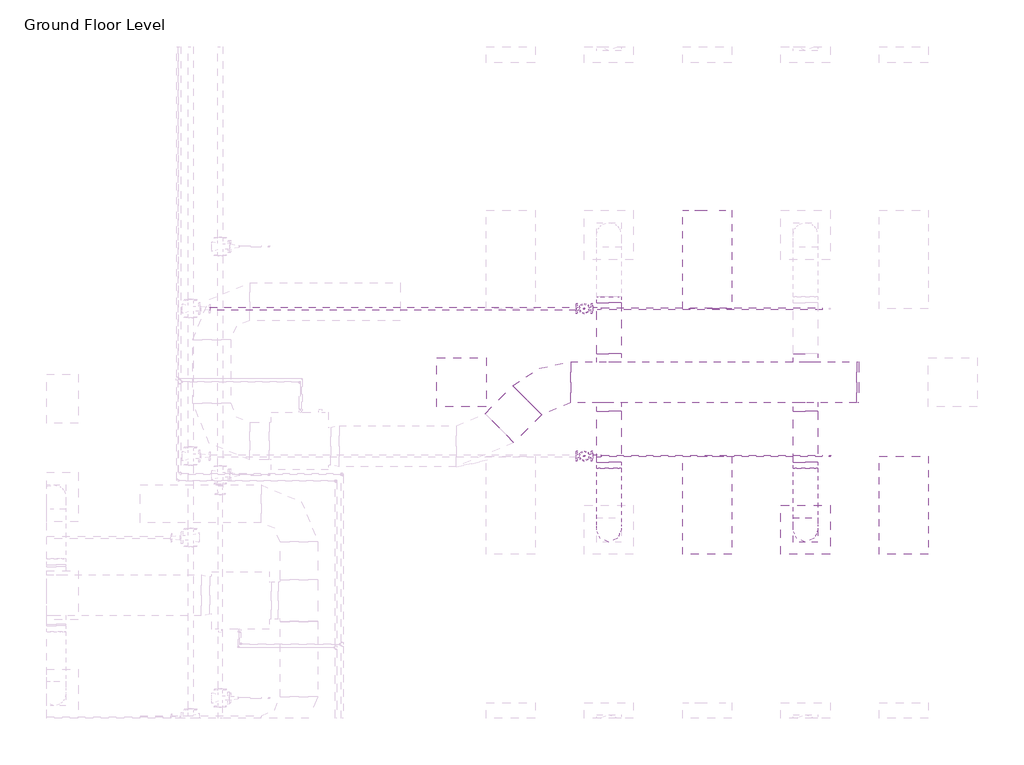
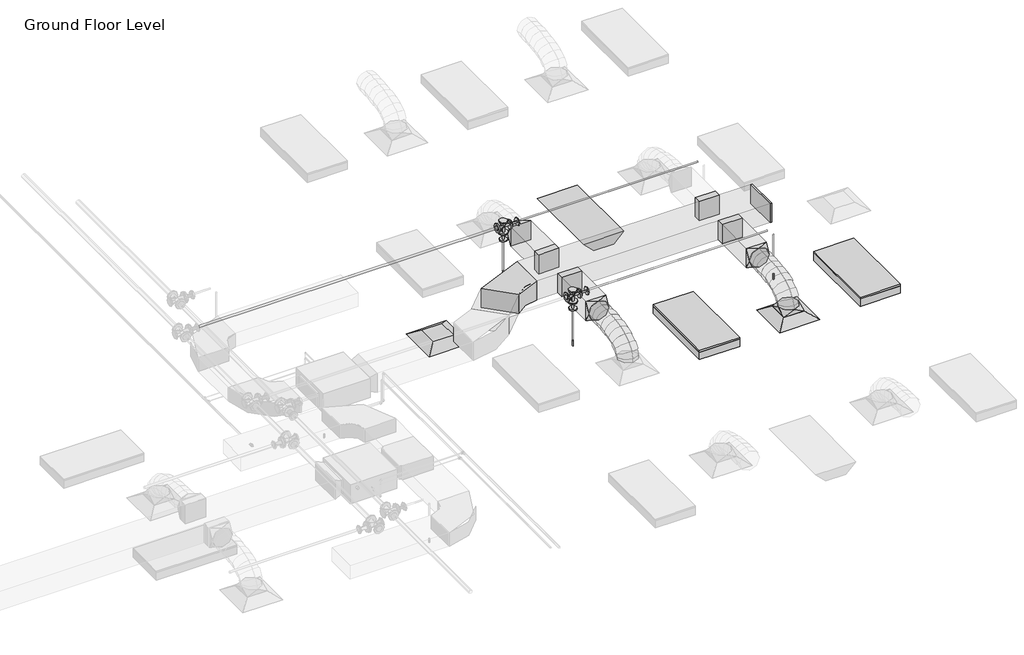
# One storey, part 64 of 73: 10 duct fittings, 7 duct segments, 6 pipe fittings, 6 pipe segments, 3 fire suppression terminals, 3 light fixtures, 2 air terminals.
"""IFC4 building model written with IfcOpenShell, lengths in millimetres."""

from ifc_helpers import new_model, si_unit, point, frame, frame_2d, origin, place, context, project, spatial, polyline, circle_curve, ellipse_curve, trimmed, segment, composite_curve, outline, extrude, transform, mapped, element, save
from ifc_brep_helpers import plane_surface, cylinder_surface, advanced_brep
from components import m_return_diffuser_600_x_600_face_300_x_300_connection_ff221211, m_rectangular_elbow_radius_1_5_w_acc56c25, m_rectangular_endcap_standard_72d4d00d, m_rectangular_takeoff_standard_cb0ccb98, m_rectangular_takeoff_standard_2be5eba1, m_rectangular_to_round_transition_angle_45_degree_641efff0, m_sprinkler_dry_pendent_hosted_15_mm_dry_pendent_9bda8e11, m_emergency_recessed_lighting_fixture_600x1200_277_5b10b25d, m_troffer_light_parabolic_rectangular1_0600x1200mm_4_lamp_86473d4a, m_reducer_flanged_cs_class_150_standard_ccf252ad, m_tee_round_base_flanged_cs_class_150_standard_7e5987a1

model = new_model("IFC4")

# Units and contexts
model_context = context("Model", 3, world=origin())
ifc_project = project(units=[si_unit("LENGTHUNIT", "METRE", prefix="MILLI")], contexts=[model_context])

# Site, building, storey
site = spatial("IfcSite", under=ifc_project)
building = spatial("IfcBuilding", under=site)
storey = spatial("IfcBuildingStorey", under=building, Name="Ground Floor Level", Elevation=900.0)

# Air terminals
placement = place(None, origin())
m_return_diffuser_600_x_600_face_300_x_300_connection_shape = m_return_diffuser_600_x_600_face_300_x_300_connection_ff221211(model_context)
element("IfcAirTerminal", 1, ObjectType="M_Return Diffuser : 600 x 600 Face 300 x 300 Connection", at=placement, inside=storey, context=model_context, shape_type="MappedRepresentation", body=[
    mapped(m_return_diffuser_600_x_600_face_300_x_300_connection_shape, transform((8942.7672395, 6735.2153534, 3650.0), x_axis=(1.0, 0.0, 0.0), y_axis=(0.0, 1.0, 0.0), z_axis=(0.0, 0.0, 1.0))),
])
element("IfcAirTerminal", 2, ObjectType="M_Supply Diffuser : 600 x 600 Face 300 x 300 Connection", at=placement, inside=storey, context=model_context, shape_type="MappedRepresentation", body=[
    mapped(m_return_diffuser_600_x_600_face_300_x_300_connection_shape, transform((13142.7672395, 4935.2153534, 3650.0), x_axis=(1.0, 0.0, 0.0), y_axis=(0.0, 1.0, 0.0), z_axis=(0.0, 0.0, 1.0))),
])

# Duct fittings
m_rectangular_elbow_radius_1_5_w_shape = m_rectangular_elbow_radius_1_5_w_acc56c25(model_context)
element("IfcDuctFitting", 3, ObjectType="M_Rectangular Elbow - Radius : 1.5 W", at=placement, inside=storey, context=model_context, shape_type="MappedRepresentation", body=[
    mapped(m_rectangular_elbow_radius_1_5_w_shape, transform((9966.7301365, 6735.2153534, 4100.0), x_axis=(-1.0, 0.0, 0.0), y_axis=(0.0, -0.9999999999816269, 6.061864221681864e-06), z_axis=(0.0, 6.061864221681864e-06, 0.9999999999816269))),
])
m_rectangular_endcap_standard_shape = m_rectangular_endcap_standard_72d4d00d(model_context)
element("IfcDuctFitting", 4, ObjectType="M_Rectangular Endcap : Standard", at=placement, inside=storey, context=model_context, shape_type="MappedRepresentation", body=[
    mapped(m_rectangular_endcap_standard_shape, transform((13766.7301365, 6735.2153534, 4100.0), x_axis=(1.0, 0.0, 0.0), y_axis=(0.0, 1.0, 0.0), z_axis=(0.0, 0.0, 1.0))),
])
m_rectangular_takeoff_standard_shape = m_rectangular_takeoff_standard_cb0ccb98(model_context)
element("IfcDuctFitting", 5, ObjectType="M_Rectangular Takeoff : Standard", at=placement, inside=storey, context=model_context, shape_type="MappedRepresentation", body=[
    mapped(m_rectangular_takeoff_standard_shape, transform((10742.7672395, 6985.2153534, 4100.0), x_axis=(0.0, 1.0, 0.0), y_axis=(1.0, 0.0, 0.0), z_axis=(0.0, 0.0, -1.0))),
])
element("IfcDuctFitting", 6, ObjectType="M_Rectangular Takeoff : Standard", at=placement, inside=storey, context=model_context, shape_type="MappedRepresentation", body=[
    mapped(m_rectangular_takeoff_standard_shape, transform((13142.7672395, 6985.2153534, 4100.0), x_axis=(0.0, 1.0, 0.0), y_axis=(1.0, 0.0, 0.0), z_axis=(0.0, 0.0, -1.0))),
])
m_rectangular_takeoff_standard_2_shape = m_rectangular_takeoff_standard_2be5eba1(model_context)
element("IfcDuctFitting", 7, ObjectType="M_Rectangular Takeoff : Standard", at=placement, inside=storey, context=model_context, shape_type="MappedRepresentation", body=[
    mapped(m_rectangular_takeoff_standard_2_shape, transform((10742.7672395, 6485.2153534, 4100.0), x_axis=(0.0, -1.0, 0.0), y_axis=(-1.0, 0.0, 0.0), z_axis=(0.0, 0.0, -1.0))),
])
element("IfcDuctFitting", 8, ObjectType="M_Rectangular Takeoff : Standard", at=placement, inside=storey, context=model_context, shape_type="MappedRepresentation", body=[
    mapped(m_rectangular_takeoff_standard_2_shape, transform((13142.7672395, 6485.2153534, 4100.0), x_axis=(0.0, -1.0, 0.0), y_axis=(-1.0, 0.0, 0.0), z_axis=(0.0, 0.0, -1.0))),
])
m_rectangular_to_round_transition_angle_45_degree_shape = m_rectangular_to_round_transition_angle_45_degree_641efff0(model_context)
element("IfcDuctFitting", 9, ObjectType="M_Rectangular to Round Transition - Angle : 45 Degree", at=placement, inside=storey, context=model_context, shape_type="MappedRepresentation", body=[
    mapped(m_rectangular_to_round_transition_angle_45_degree_shape, transform((10742.7672395, 5762.5512847, 4100.0), x_axis=(0.0, -1.0, 0.0), y_axis=(1.0, 0.0, 0.0), z_axis=(0.0, 0.0, 1.0))),
])
element("IfcDuctFitting", 10, ObjectType="M_Rectangular to Round Transition - Angle : 45 Degree", at=placement, inside=storey, context=model_context, shape_type="MappedRepresentation", body=[
    mapped(m_rectangular_to_round_transition_angle_45_degree_shape, transform((13142.7672395, 4935.2153534, 3751.6), x_axis=(0.0, 0.0, 1.0), y_axis=(-1.0, 0.0, 0.0), z_axis=(0.0, -1.0, 0.0))),
])
element("IfcDuctFitting", 11, ObjectType="M_Rectangular to Round Transition - Angle : 45 Degree", at=placement, inside=storey, context=model_context, shape_type="MappedRepresentation", body=[
    mapped(m_rectangular_to_round_transition_angle_45_degree_shape, transform((13142.7672395, 5762.5512847, 4100.0), x_axis=(0.0, -1.0, 0.0), y_axis=(1.0, 0.0, 0.0), z_axis=(0.0, 0.0, 1.0))),
])
element("IfcDuctFitting", 12, ObjectType="M_Rectangular to Round Transition - Angle : 45 Degree", at=placement, inside=storey, context=model_context, shape_type="MappedRepresentation", body=[
    mapped(m_rectangular_to_round_transition_angle_45_degree_shape, transform((10742.7672395, 7707.8794221, 4100.0), x_axis=(0.0, 1.0, 0.0), y_axis=(-1.0, 0.0, 0.0), z_axis=(0.0, 0.0, 1.0))),
])

# Duct segments
element("IfcDuctSegment", 13, ObjectType="Flex - Round", at=placement, inside=storey, context=model_context, shape_type="AdvancedBrep", body=[
    advanced_brep(
    [(10892.7672395, 4935.2153534, 3826.6), (10742.7672395, 4785.2153534, 3826.6), (10592.7672395, 4935.2153534, 3826.6), (10742.7672395, 5085.2153534, 3826.6), (10892.7672395, 4935.2153534, 3857.9377114), (10742.7672395, 4785.2153534, 3883.5809337), (10592.7672395, 4935.2153534, 3857.9377114), (10742.7672395, 5085.2153534, 3832.2944892), (10892.7672395, 4952.2312859, 3906.2505728), (10742.7672395, 4818.493307, 3978.0660967), (10592.7672395, 4952.2312859, 3906.2505728), (10742.7672395, 5085.9692649, 3834.435049), (10892.7672395, 4999.4151663, 3968.7113131), (10742.7672395, 4895.209267, 4079.6206026), (10592.7672395, 4999.4151663, 3968.7113131), (10742.7672395, 5103.6210655, 3857.8020236), (10892.7672395, 5070.9711184, 4016.0700639), (10742.7672395, 5002.0370628, 4150.3237489), (10592.7672395, 5070.9711184, 4016.0700639), (10742.7672395, 5139.9051741, 3881.8163788), (10892.7672395, 5161.1032664, 4050.4146682), (10742.7672395, 5117.5425033, 4194.3367758), (10592.7672395, 5161.1032664, 4050.4146682), (10742.7672395, 5204.6640296, 3906.4925606), (10892.7672395, 5264.0157343, 4073.8329691), (10742.7672395, 5237.4548103, 4221.6234841), (10592.7672395, 5264.0157343, 4073.8329691), (10742.7672395, 5290.5766583, 3926.0424542), (10892.7672395, 5373.912646, 4088.4128097), (10742.7672395, 5358.7617437, 4237.7170733), (10592.7672395, 5373.912646, 4088.4128097), (10742.7672395, 5389.0635483, 3939.1085462), (10892.7672395, 5484.9981256, 4096.242033), (10742.7672395, 5477.4927974, 4246.085151), (10592.7672395, 5484.9981256, 4096.242033), (10742.7672395, 5492.5034538, 3946.398915), (10892.7672395, 5591.4762972, 4099.4084821), (10742.7672395, 5588.7848041, 4249.394754), (10592.7672395, 5591.4762972, 4099.4084821), (10742.7672395, 5594.1677903, 3949.4222102), (10892.7672395, 5687.5512847, 4100.0), (10742.7672395, 5688.4747925, 3950.0028429), (10592.7672395, 5687.5512847, 4100.0), (10742.7672395, 5686.6277768, 4249.9971571)],
    [
        (0, 1, circle_curve(frame((10742.7672395, 4935.2153534, 3826.6), z_axis=(0.0, 0.0, -1.0), x_axis=(1.0, 0.0, 0.0)), 150.0)),
        (1, 2, circle_curve(frame((10742.7672395, 4935.2153534, 3826.6), z_axis=(0.0, 0.0, -1.0), x_axis=(1.0, 0.0, 0.0)), 150.0)),
        (2, 3, circle_curve(frame((10742.7672395, 4935.2153534, 3826.6), z_axis=(0.0, 0.0, -1.0), x_axis=(1.0, 0.0, 0.0)), 150.0)),
        (3, 0, circle_curve(frame((10742.7672395, 4935.2153534, 3826.6), z_axis=(0.0, 0.0, -1.0), x_axis=(1.0, 0.0, 0.0)), 150.0)),
        (0, 4),
        (4, 5, ellipse_curve(frame((10742.7672395, 4935.2153534, 3857.9377114), z_axis=(0.0, -0.16851014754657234, -0.9856999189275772), x_axis=(0.0, 0.9856999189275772, -0.1685101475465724)), 152.176131, 150.0)),
        (5, 1),
        (5, 6, ellipse_curve(frame((10742.7672395, 4935.2153534, 3857.9377114), z_axis=(0.0, -0.16851014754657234, -0.9856999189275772), x_axis=(0.0, 0.9856999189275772, -0.1685101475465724)), 152.176131, 150.0)),
        (6, 2),
        (6, 7, ellipse_curve(frame((10742.7672395, 4935.2153534, 3857.9377114), z_axis=(0.0, -0.16851014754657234, -0.9856999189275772), x_axis=(0.0, 0.9856999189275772, -0.1685101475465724)), 152.176131, 150.0)),
        (7, 3),
        (7, 4, ellipse_curve(frame((10742.7672395, 4935.2153534, 3857.9377114), z_axis=(0.0, -0.16851014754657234, -0.9856999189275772), x_axis=(0.0, 0.9856999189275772, -0.1685101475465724)), 152.176131, 150.0)),
        (4, 8),
        (8, 9, ellipse_curve(frame((10742.7672395, 4952.2312859, 3906.2505728), z_axis=(0.0, -0.4730922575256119, -0.8810128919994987), x_axis=(0.0, 0.8810128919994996, -0.47309225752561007)), 151.8002519, 150.0)),
        (9, 5),
        (9, 10, ellipse_curve(frame((10742.7672395, 4952.2312859, 3906.2505728), z_axis=(0.0, -0.4730922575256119, -0.8810128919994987), x_axis=(0.0, 0.8810128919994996, -0.47309225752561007)), 151.8002519, 150.0)),
        (10, 6),
        (10, 11, ellipse_curve(frame((10742.7672395, 4952.2312859, 3906.2505728), z_axis=(0.0, -0.4730922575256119, -0.8810128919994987), x_axis=(0.0, 0.8810128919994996, -0.47309225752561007)), 151.8002519, 150.0)),
        (11, 7),
        (11, 8, ellipse_curve(frame((10742.7672395, 4952.2312859, 3906.2505728), z_axis=(0.0, -0.4730922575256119, -0.8810128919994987), x_axis=(0.0, 0.8810128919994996, -0.47309225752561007)), 151.8002519, 150.0)),
        (8, 12),
        (12, 13, ellipse_curve(frame((10742.7672395, 4999.4151663, 3968.7113131), z_axis=(0.0, -0.7287877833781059, -0.6847396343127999), x_axis=(0.0, 0.6847396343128, -0.7287877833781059)), 152.1832446, 150.0)),
        (13, 9),
        (13, 14, ellipse_curve(frame((10742.7672395, 4999.4151663, 3968.7113131), z_axis=(0.0, -0.7287877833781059, -0.6847396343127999), x_axis=(0.0, 0.6847396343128, -0.7287877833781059)), 152.1832446, 150.0)),
        (14, 10),
        (14, 15, ellipse_curve(frame((10742.7672395, 4999.4151663, 3968.7113131), z_axis=(0.0, -0.7287877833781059, -0.6847396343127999), x_axis=(0.0, 0.6847396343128, -0.7287877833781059)), 152.1832446, 150.0)),
        (15, 11),
        (15, 12, ellipse_curve(frame((10742.7672395, 4999.4151663, 3968.7113131), z_axis=(0.0, -0.7287877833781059, -0.6847396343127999), x_axis=(0.0, 0.6847396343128, -0.7287877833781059)), 152.1832446, 150.0)),
        (12, 16),
        (16, 17, ellipse_curve(frame((10742.7672395, 5070.9711184, 4016.0700639), z_axis=(0.0, -0.8895859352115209, -0.4567678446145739), x_axis=(0.0, 0.4567678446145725, -0.8895859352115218)), 150.91705, 150.0)),
        (17, 13),
        (17, 18, ellipse_curve(frame((10742.7672395, 5070.9711184, 4016.0700639), z_axis=(0.0, -0.8895859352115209, -0.4567678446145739), x_axis=(0.0, 0.4567678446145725, -0.8895859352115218)), 150.91705, 150.0)),
        (18, 14),
        (18, 19, ellipse_curve(frame((10742.7672395, 5070.9711184, 4016.0700639), z_axis=(0.0, -0.8895859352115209, -0.4567678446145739), x_axis=(0.0, 0.4567678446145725, -0.8895859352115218)), 150.91705, 150.0)),
        (19, 15),
        (19, 16, ellipse_curve(frame((10742.7672395, 5070.9711184, 4016.0700639), z_axis=(0.0, -0.8895859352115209, -0.4567678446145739), x_axis=(0.0, 0.4567678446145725, -0.8895859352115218)), 150.91705, 150.0)),
        (16, 20),
        (20, 21, ellipse_curve(frame((10742.7672395, 5161.1032664, 4050.4146682), z_axis=(0.0, -0.9571203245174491, -0.28969067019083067), x_axis=(0.0, 0.28969067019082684, -0.9571203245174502)), 150.369921, 150.0)),
        (21, 17),
        (21, 22, ellipse_curve(frame((10742.7672395, 5161.1032664, 4050.4146682), z_axis=(0.0, -0.9571203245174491, -0.28969067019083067), x_axis=(0.0, 0.28969067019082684, -0.9571203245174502)), 150.369921, 150.0)),
        (22, 18),
        (22, 23, ellipse_curve(frame((10742.7672395, 5161.1032664, 4050.4146682), z_axis=(0.0, -0.9571203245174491, -0.28969067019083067), x_axis=(0.0, 0.28969067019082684, -0.9571203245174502)), 150.369921, 150.0)),
        (23, 19),
        (23, 20, ellipse_curve(frame((10742.7672395, 5161.1032664, 4050.4146682), z_axis=(0.0, -0.9571203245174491, -0.28969067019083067), x_axis=(0.0, 0.28969067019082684, -0.9571203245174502)), 150.369921, 150.0)),
        (20, 24),
        (24, 25, ellipse_curve(frame((10742.7672395, 5264.0157343, 4073.8329691), z_axis=(0.0, -0.9842313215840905, -0.17688613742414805), x_axis=(0.0, 0.17688613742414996, -0.9842313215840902)), 150.1583131, 150.0)),
        (25, 21),
        (25, 26, ellipse_curve(frame((10742.7672395, 5264.0157343, 4073.8329691), z_axis=(0.0, -0.9842313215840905, -0.17688613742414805), x_axis=(0.0, 0.17688613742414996, -0.9842313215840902)), 150.1583131, 150.0)),
        (26, 22),
        (26, 27, ellipse_curve(frame((10742.7672395, 5264.0157343, 4073.8329691), z_axis=(0.0, -0.9842313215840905, -0.17688613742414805), x_axis=(0.0, 0.17688613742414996, -0.9842313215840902)), 150.1583131, 150.0)),
        (27, 23),
        (27, 24, ellipse_curve(frame((10742.7672395, 5264.0157343, 4073.8329691), z_axis=(0.0, -0.9842313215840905, -0.17688613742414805), x_axis=(0.0, 0.17688613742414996, -0.9842313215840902)), 150.1583131, 150.0)),
        (24, 28),
        (28, 29, ellipse_curve(frame((10742.7672395, 5373.912646, 4088.4128097), z_axis=(0.0, -0.9948906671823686, -0.10095821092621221), x_axis=(0.0, 0.10095821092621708, -0.9948906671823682)), 150.0710264, 150.0)),
        (29, 25),
        (29, 30, ellipse_curve(frame((10742.7672395, 5373.912646, 4088.4128097), z_axis=(0.0, -0.9948906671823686, -0.10095821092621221), x_axis=(0.0, 0.10095821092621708, -0.9948906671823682)), 150.0710264, 150.0)),
        (30, 26),
        (30, 31, ellipse_curve(frame((10742.7672395, 5373.912646, 4088.4128097), z_axis=(0.0, -0.9948906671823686, -0.10095821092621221), x_axis=(0.0, 0.10095821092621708, -0.9948906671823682)), 150.0710264, 150.0)),
        (31, 27),
        (31, 28, ellipse_curve(frame((10742.7672395, 5373.912646, 4088.4128097), z_axis=(0.0, -0.9948906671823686, -0.10095821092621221), x_axis=(0.0, 0.10095821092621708, -0.9948906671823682)), 150.0710264, 150.0)),
        (28, 32),
        (32, 33, ellipse_curve(frame((10742.7672395, 5484.9981256, 4096.242033), z_axis=(0.0, -0.9987479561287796, -0.05002519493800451), x_axis=(0.0, 0.050025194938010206, -0.9987479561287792)), 150.0309634, 150.0)),
        (33, 29),
        (33, 34, ellipse_curve(frame((10742.7672395, 5484.9981256, 4096.242033), z_axis=(0.0, -0.9987479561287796, -0.05002519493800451), x_axis=(0.0, 0.050025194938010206, -0.9987479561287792)), 150.0309634, 150.0)),
        (34, 30),
        (34, 35, ellipse_curve(frame((10742.7672395, 5484.9981256, 4096.242033), z_axis=(0.0, -0.9987479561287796, -0.05002519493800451), x_axis=(0.0, 0.050025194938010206, -0.9987479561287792)), 150.0309634, 150.0)),
        (35, 31),
        (35, 32, ellipse_curve(frame((10742.7672395, 5484.9981256, 4096.242033), z_axis=(0.0, -0.9987479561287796, -0.05002519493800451), x_axis=(0.0, 0.050025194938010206, -0.9987479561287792)), 150.0309634, 150.0)),
        (32, 36),
        (36, 37, ellipse_curve(frame((10742.7672395, 5591.4762972, 4099.4084821), z_axis=(0.0, -0.9998390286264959, -0.017942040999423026), x_axis=(0.0, 0.01794204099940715, -0.9998390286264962)), 150.0104193, 150.0)),
        (37, 33),
        (37, 38, ellipse_curve(frame((10742.7672395, 5591.4762972, 4099.4084821), z_axis=(0.0, -0.9998390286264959, -0.017942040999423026), x_axis=(0.0, 0.01794204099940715, -0.9998390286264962)), 150.0104193, 150.0)),
        (38, 34),
        (38, 39, ellipse_curve(frame((10742.7672395, 5591.4762972, 4099.4084821), z_axis=(0.0, -0.9998390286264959, -0.017942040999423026), x_axis=(0.0, 0.01794204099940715, -0.9998390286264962)), 150.0104193, 150.0)),
        (39, 35),
        (39, 36, ellipse_curve(frame((10742.7672395, 5591.4762972, 4099.4084821), z_axis=(0.0, -0.9998390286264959, -0.017942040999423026), x_axis=(0.0, 0.01794204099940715, -0.9998390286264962)), 150.0104193, 150.0)),
        (40, 41, circle_curve(frame((10742.7672395, 5687.5512847, 4100.0), z_axis=(0.0, 0.9999810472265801, 0.006156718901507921), x_axis=(1.0, 0.0, 0.0)), 150.0)),
        (41, 42, circle_curve(frame((10742.7672395, 5687.5512847, 4100.0), z_axis=(0.0, 0.9999810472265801, 0.006156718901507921), x_axis=(1.0, 0.0, 0.0)), 150.0)),
        (42, 43, circle_curve(frame((10742.7672395, 5687.5512847, 4100.0), z_axis=(0.0, 0.9999810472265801, 0.006156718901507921), x_axis=(1.0, 0.0, 0.0)), 150.0)),
        (43, 40, circle_curve(frame((10742.7672395, 5687.5512847, 4100.0), z_axis=(0.0, 0.9999810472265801, 0.006156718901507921), x_axis=(1.0, 0.0, 0.0)), 150.0)),
        (36, 40),
        (43, 37),
        (42, 38),
        (41, 39),
    ],
    [
        plane_surface(frame((10742.7672395, 4785.2153534, 3826.6), z_axis=(0.0, 0.0, -1.0), x_axis=(1.0, 0.0, 0.0))),
        cylinder_surface(frame((10742.7672395, 4935.2153534, 3826.6), z_axis=(0.0, 0.0, -1.0), x_axis=(1.0, 0.0, 0.0)), 150.0),
        cylinder_surface(frame((10742.7672395, 4935.2153534, 3857.9377114), z_axis=(0.0, -0.3322008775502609, -0.9432086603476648), x_axis=(1.0, 0.0, 0.0)), 150.0),
        cylinder_surface(frame((10742.7672395, 4952.2312859, 3906.2505728), z_axis=(0.0, -0.6027625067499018, -0.7979206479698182), x_axis=(1.0, 0.0, 0.0)), 150.0),
        cylinder_surface(frame((10742.7672395, 4999.4151663, 3968.7113131), z_axis=(0.0, -0.8339024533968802, -0.5519118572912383), x_axis=(1.0, 0.0, 0.0)), 150.0),
        cylinder_surface(frame((10742.7672395, 5070.9711184, 4016.0700639), z_axis=(0.0, -0.934458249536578, -0.35607271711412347), x_axis=(1.0, 0.0, 0.0)), 150.0),
        cylinder_surface(frame((10742.7672395, 5161.1032664, 4050.4146682), z_axis=(0.0, -0.9750732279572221, -0.22188330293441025), x_axis=(1.0, 0.0, 0.0)), 150.0),
        cylinder_surface(frame((10742.7672395, 5264.0157343, 4073.8329691), z_axis=(0.0, -0.9913140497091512, -0.1315159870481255), x_axis=(1.0, 0.0, 0.0)), 150.0),
        cylinder_surface(frame((10742.7672395, 5373.912646, 4088.4128097), z_axis=(0.0, -0.9975255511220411, -0.07030487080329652), x_axis=(1.0, 0.0, 0.0)), 150.0),
        cylinder_surface(frame((10742.7672395, 5484.9981256, 4096.242033), z_axis=(0.0, -0.9995581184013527, -0.02972487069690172), x_axis=(1.0, 0.0, 0.0)), 150.0),
        plane_surface(frame((10742.7672395, 5686.6277768, 4249.9971571), z_axis=(0.0, 0.9999810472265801, 0.0061567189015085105), x_axis=(1.0, 0.0, 0.0))),
        cylinder_surface(frame((10742.7672395, 5591.4762972, 4099.4084821), z_axis=(0.0, -0.9999810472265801, -0.006156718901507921), x_axis=(1.0, 0.0, 0.0)), 150.0),
    ],
    [
        (0, [[1, 2, 3, 4]]),
        (1, [[-1, 5, 6, 7]]),
        (1, [[-2, -7, 8, 9]]),
        (1, [[-3, -9, 10, 11]]),
        (1, [[-4, -11, 12, -5]]),
        (2, [[-6, 13, 14, 15]]),
        (2, [[-8, -15, 16, 17]]),
        (2, [[-10, -17, 18, 19]]),
        (2, [[-12, -19, 20, -13]]),
        (3, [[-14, 21, 22, 23]]),
        (3, [[-16, -23, 24, 25]]),
        (3, [[-18, -25, 26, 27]]),
        (3, [[-20, -27, 28, -21]]),
        (4, [[-22, 29, 30, 31]]),
        (4, [[-24, -31, 32, 33]]),
        (4, [[-26, -33, 34, 35]]),
        (4, [[-28, -35, 36, -29]]),
        (5, [[-30, 37, 38, 39]]),
        (5, [[-32, -39, 40, 41]]),
        (5, [[-34, -41, 42, 43]]),
        (5, [[-36, -43, 44, -37]]),
        (6, [[-38, 45, 46, 47]]),
        (6, [[-40, -47, 48, 49]]),
        (6, [[-42, -49, 50, 51]]),
        (6, [[-44, -51, 52, -45]]),
        (7, [[-46, 53, 54, 55]]),
        (7, [[-48, -55, 56, 57]]),
        (7, [[-50, -57, 58, 59]]),
        (7, [[-52, -59, 60, -53]]),
        (8, [[-54, 61, 62, 63]]),
        (8, [[-56, -63, 64, 65]]),
        (8, [[-58, -65, 66, 67]]),
        (8, [[-60, -67, 68, -61]]),
        (9, [[-62, 69, 70, 71]]),
        (9, [[-64, -71, 72, 73]]),
        (9, [[-66, -73, 74, 75]]),
        (9, [[-68, -75, 76, -69]]),
        (10, [[77, 78, 79, 80]]),
        (11, [[-70, 81, -80, 82]]),
        (11, [[-72, -82, -79, 83]]),
        (11, [[-74, -83, -78, 84]]),
        (11, [[-76, -84, -77, -81]]),
    ],
),
])
element("IfcDuctSegment", 14, ObjectType="Flex - Round", at=placement, inside=storey, context=model_context, shape_type="AdvancedBrep", body=[
    advanced_brep(
    [(13292.7672395, 4935.2153534, 3826.6), (13142.7672395, 4785.2153534, 3826.6), (12992.7672395, 4935.2153534, 3826.6), (13142.7672395, 5085.2153534, 3826.6), (13292.7672395, 4935.2153534, 3857.9377114), (13142.7672395, 4785.2153534, 3883.5809337), (12992.7672395, 4935.2153534, 3857.9377114), (13142.7672395, 5085.2153534, 3832.2944892), (13292.7672395, 4952.2312859, 3906.2505728), (13142.7672395, 4818.493307, 3978.0660967), (12992.7672395, 4952.2312859, 3906.2505728), (13142.7672395, 5085.9692649, 3834.435049), (13292.7672395, 4999.4151663, 3968.7113131), (13142.7672395, 4895.209267, 4079.6206026), (12992.7672395, 4999.4151663, 3968.7113131), (13142.7672395, 5103.6210655, 3857.8020236), (13292.7672395, 5070.9711184, 4016.0700639), (13142.7672395, 5002.0370628, 4150.3237489), (12992.7672395, 5070.9711184, 4016.0700639), (13142.7672395, 5139.9051741, 3881.8163788), (13292.7672395, 5161.1032664, 4050.4146682), (13142.7672395, 5117.5425033, 4194.3367758), (12992.7672395, 5161.1032664, 4050.4146682), (13142.7672395, 5204.6640296, 3906.4925606), (13292.7672395, 5264.0157343, 4073.8329691), (13142.7672395, 5237.4548103, 4221.6234841), (12992.7672395, 5264.0157343, 4073.8329691), (13142.7672395, 5290.5766583, 3926.0424542), (13292.7672395, 5373.912646, 4088.4128097), (13142.7672395, 5358.7617437, 4237.7170733), (12992.7672395, 5373.912646, 4088.4128097), (13142.7672395, 5389.0635483, 3939.1085462), (13292.7672395, 5484.9981256, 4096.242033), (13142.7672395, 5477.4927974, 4246.085151), (12992.7672395, 5484.9981256, 4096.242033), (13142.7672395, 5492.5034538, 3946.398915), (13292.7672395, 5591.4762972, 4099.4084821), (13142.7672395, 5588.7848041, 4249.394754), (12992.7672395, 5591.4762972, 4099.4084821), (13142.7672395, 5594.1677903, 3949.4222102), (13292.7672395, 5687.5512847, 4100.0), (13142.7672395, 5688.4747925, 3950.0028429), (12992.7672395, 5687.5512847, 4100.0), (13142.7672395, 5686.6277768, 4249.9971571)],
    [
        (0, 1, circle_curve(frame((13142.7672395, 4935.2153534, 3826.6), z_axis=(0.0, 0.0, -1.0), x_axis=(1.0, 0.0, 0.0)), 150.0)),
        (1, 2, circle_curve(frame((13142.7672395, 4935.2153534, 3826.6), z_axis=(0.0, 0.0, -1.0), x_axis=(1.0, 0.0, 0.0)), 150.0)),
        (2, 3, circle_curve(frame((13142.7672395, 4935.2153534, 3826.6), z_axis=(0.0, 0.0, -1.0), x_axis=(1.0, 0.0, 0.0)), 150.0)),
        (3, 0, circle_curve(frame((13142.7672395, 4935.2153534, 3826.6), z_axis=(0.0, 0.0, -1.0), x_axis=(1.0, 0.0, 0.0)), 150.0)),
        (0, 4),
        (4, 5, ellipse_curve(frame((13142.7672395, 4935.2153534, 3857.9377114), z_axis=(0.0, -0.16851014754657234, -0.9856999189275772), x_axis=(0.0, 0.9856999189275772, -0.1685101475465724)), 152.176131, 150.0)),
        (5, 1),
        (5, 6, ellipse_curve(frame((13142.7672395, 4935.2153534, 3857.9377114), z_axis=(0.0, -0.16851014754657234, -0.9856999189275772), x_axis=(0.0, 0.9856999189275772, -0.1685101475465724)), 152.176131, 150.0)),
        (6, 2),
        (6, 7, ellipse_curve(frame((13142.7672395, 4935.2153534, 3857.9377114), z_axis=(0.0, -0.16851014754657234, -0.9856999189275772), x_axis=(0.0, 0.9856999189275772, -0.1685101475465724)), 152.176131, 150.0)),
        (7, 3),
        (7, 4, ellipse_curve(frame((13142.7672395, 4935.2153534, 3857.9377114), z_axis=(0.0, -0.16851014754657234, -0.9856999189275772), x_axis=(0.0, 0.9856999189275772, -0.1685101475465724)), 152.176131, 150.0)),
        (4, 8),
        (8, 9, ellipse_curve(frame((13142.7672395, 4952.2312859, 3906.2505728), z_axis=(0.0, -0.4730922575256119, -0.8810128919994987), x_axis=(0.0, 0.8810128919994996, -0.47309225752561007)), 151.8002519, 150.0)),
        (9, 5),
        (9, 10, ellipse_curve(frame((13142.7672395, 4952.2312859, 3906.2505728), z_axis=(0.0, -0.4730922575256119, -0.8810128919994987), x_axis=(0.0, 0.8810128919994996, -0.47309225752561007)), 151.8002519, 150.0)),
        (10, 6),
        (10, 11, ellipse_curve(frame((13142.7672395, 4952.2312859, 3906.2505728), z_axis=(0.0, -0.4730922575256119, -0.8810128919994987), x_axis=(0.0, 0.8810128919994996, -0.47309225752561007)), 151.8002519, 150.0)),
        (11, 7),
        (11, 8, ellipse_curve(frame((13142.7672395, 4952.2312859, 3906.2505728), z_axis=(0.0, -0.4730922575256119, -0.8810128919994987), x_axis=(0.0, 0.8810128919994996, -0.47309225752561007)), 151.8002519, 150.0)),
        (8, 12),
        (12, 13, ellipse_curve(frame((13142.7672395, 4999.4151663, 3968.7113131), z_axis=(0.0, -0.7287877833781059, -0.6847396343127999), x_axis=(0.0, 0.6847396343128, -0.7287877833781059)), 152.1832446, 150.0)),
        (13, 9),
        (13, 14, ellipse_curve(frame((13142.7672395, 4999.4151663, 3968.7113131), z_axis=(0.0, -0.7287877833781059, -0.6847396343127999), x_axis=(0.0, 0.6847396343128, -0.7287877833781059)), 152.1832446, 150.0)),
        (14, 10),
        (14, 15, ellipse_curve(frame((13142.7672395, 4999.4151663, 3968.7113131), z_axis=(0.0, -0.7287877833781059, -0.6847396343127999), x_axis=(0.0, 0.6847396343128, -0.7287877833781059)), 152.1832446, 150.0)),
        (15, 11),
        (15, 12, ellipse_curve(frame((13142.7672395, 4999.4151663, 3968.7113131), z_axis=(0.0, -0.7287877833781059, -0.6847396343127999), x_axis=(0.0, 0.6847396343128, -0.7287877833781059)), 152.1832446, 150.0)),
        (12, 16),
        (16, 17, ellipse_curve(frame((13142.7672395, 5070.9711184, 4016.0700639), z_axis=(0.0, -0.8895859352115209, -0.4567678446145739), x_axis=(0.0, 0.4567678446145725, -0.8895859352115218)), 150.91705, 150.0)),
        (17, 13),
        (17, 18, ellipse_curve(frame((13142.7672395, 5070.9711184, 4016.0700639), z_axis=(0.0, -0.8895859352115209, -0.4567678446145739), x_axis=(0.0, 0.4567678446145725, -0.8895859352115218)), 150.91705, 150.0)),
        (18, 14),
        (18, 19, ellipse_curve(frame((13142.7672395, 5070.9711184, 4016.0700639), z_axis=(0.0, -0.8895859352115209, -0.4567678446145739), x_axis=(0.0, 0.4567678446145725, -0.8895859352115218)), 150.91705, 150.0)),
        (19, 15),
        (19, 16, ellipse_curve(frame((13142.7672395, 5070.9711184, 4016.0700639), z_axis=(0.0, -0.8895859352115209, -0.4567678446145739), x_axis=(0.0, 0.4567678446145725, -0.8895859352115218)), 150.91705, 150.0)),
        (16, 20),
        (20, 21, ellipse_curve(frame((13142.7672395, 5161.1032664, 4050.4146682), z_axis=(0.0, -0.9571203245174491, -0.28969067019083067), x_axis=(0.0, 0.28969067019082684, -0.9571203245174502)), 150.369921, 150.0)),
        (21, 17),
        (21, 22, ellipse_curve(frame((13142.7672395, 5161.1032664, 4050.4146682), z_axis=(0.0, -0.9571203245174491, -0.28969067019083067), x_axis=(0.0, 0.28969067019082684, -0.9571203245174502)), 150.369921, 150.0)),
        (22, 18),
        (22, 23, ellipse_curve(frame((13142.7672395, 5161.1032664, 4050.4146682), z_axis=(0.0, -0.9571203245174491, -0.28969067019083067), x_axis=(0.0, 0.28969067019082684, -0.9571203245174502)), 150.369921, 150.0)),
        (23, 19),
        (23, 20, ellipse_curve(frame((13142.7672395, 5161.1032664, 4050.4146682), z_axis=(0.0, -0.9571203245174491, -0.28969067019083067), x_axis=(0.0, 0.28969067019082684, -0.9571203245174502)), 150.369921, 150.0)),
        (20, 24),
        (24, 25, ellipse_curve(frame((13142.7672395, 5264.0157343, 4073.8329691), z_axis=(0.0, -0.9842313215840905, -0.17688613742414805), x_axis=(0.0, 0.17688613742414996, -0.9842313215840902)), 150.1583131, 150.0)),
        (25, 21),
        (25, 26, ellipse_curve(frame((13142.7672395, 5264.0157343, 4073.8329691), z_axis=(0.0, -0.9842313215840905, -0.17688613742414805), x_axis=(0.0, 0.17688613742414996, -0.9842313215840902)), 150.1583131, 150.0)),
        (26, 22),
        (26, 27, ellipse_curve(frame((13142.7672395, 5264.0157343, 4073.8329691), z_axis=(0.0, -0.9842313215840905, -0.17688613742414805), x_axis=(0.0, 0.17688613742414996, -0.9842313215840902)), 150.1583131, 150.0)),
        (27, 23),
        (27, 24, ellipse_curve(frame((13142.7672395, 5264.0157343, 4073.8329691), z_axis=(0.0, -0.9842313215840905, -0.17688613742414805), x_axis=(0.0, 0.17688613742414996, -0.9842313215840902)), 150.1583131, 150.0)),
        (24, 28),
        (28, 29, ellipse_curve(frame((13142.7672395, 5373.912646, 4088.4128097), z_axis=(0.0, -0.9948906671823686, -0.10095821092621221), x_axis=(0.0, 0.10095821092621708, -0.9948906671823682)), 150.0710264, 150.0)),
        (29, 25),
        (29, 30, ellipse_curve(frame((13142.7672395, 5373.912646, 4088.4128097), z_axis=(0.0, -0.9948906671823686, -0.10095821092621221), x_axis=(0.0, 0.10095821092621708, -0.9948906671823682)), 150.0710264, 150.0)),
        (30, 26),
        (30, 31, ellipse_curve(frame((13142.7672395, 5373.912646, 4088.4128097), z_axis=(0.0, -0.9948906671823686, -0.10095821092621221), x_axis=(0.0, 0.10095821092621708, -0.9948906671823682)), 150.0710264, 150.0)),
        (31, 27),
        (31, 28, ellipse_curve(frame((13142.7672395, 5373.912646, 4088.4128097), z_axis=(0.0, -0.9948906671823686, -0.10095821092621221), x_axis=(0.0, 0.10095821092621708, -0.9948906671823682)), 150.0710264, 150.0)),
        (28, 32),
        (32, 33, ellipse_curve(frame((13142.7672395, 5484.9981256, 4096.242033), z_axis=(0.0, -0.9987479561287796, -0.05002519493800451), x_axis=(0.0, 0.050025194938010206, -0.9987479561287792)), 150.0309634, 150.0)),
        (33, 29),
        (33, 34, ellipse_curve(frame((13142.7672395, 5484.9981256, 4096.242033), z_axis=(0.0, -0.9987479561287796, -0.05002519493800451), x_axis=(0.0, 0.050025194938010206, -0.9987479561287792)), 150.0309634, 150.0)),
        (34, 30),
        (34, 35, ellipse_curve(frame((13142.7672395, 5484.9981256, 4096.242033), z_axis=(0.0, -0.9987479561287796, -0.05002519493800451), x_axis=(0.0, 0.050025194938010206, -0.9987479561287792)), 150.0309634, 150.0)),
        (35, 31),
        (35, 32, ellipse_curve(frame((13142.7672395, 5484.9981256, 4096.242033), z_axis=(0.0, -0.9987479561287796, -0.05002519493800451), x_axis=(0.0, 0.050025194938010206, -0.9987479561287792)), 150.0309634, 150.0)),
        (32, 36),
        (36, 37, ellipse_curve(frame((13142.7672395, 5591.4762972, 4099.4084821), z_axis=(0.0, -0.9998390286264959, -0.017942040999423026), x_axis=(0.0, 0.01794204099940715, -0.9998390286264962)), 150.0104193, 150.0)),
        (37, 33),
        (37, 38, ellipse_curve(frame((13142.7672395, 5591.4762972, 4099.4084821), z_axis=(0.0, -0.9998390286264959, -0.017942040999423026), x_axis=(0.0, 0.01794204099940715, -0.9998390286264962)), 150.0104193, 150.0)),
        (38, 34),
        (38, 39, ellipse_curve(frame((13142.7672395, 5591.4762972, 4099.4084821), z_axis=(0.0, -0.9998390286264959, -0.017942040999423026), x_axis=(0.0, 0.01794204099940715, -0.9998390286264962)), 150.0104193, 150.0)),
        (39, 35),
        (39, 36, ellipse_curve(frame((13142.7672395, 5591.4762972, 4099.4084821), z_axis=(0.0, -0.9998390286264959, -0.017942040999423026), x_axis=(0.0, 0.01794204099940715, -0.9998390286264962)), 150.0104193, 150.0)),
        (40, 41, circle_curve(frame((13142.7672395, 5687.5512847, 4100.0), z_axis=(0.0, 0.9999810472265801, 0.006156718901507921), x_axis=(1.0, 0.0, 0.0)), 150.0)),
        (41, 42, circle_curve(frame((13142.7672395, 5687.5512847, 4100.0), z_axis=(0.0, 0.9999810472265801, 0.006156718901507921), x_axis=(1.0, 0.0, 0.0)), 150.0)),
        (42, 43, circle_curve(frame((13142.7672395, 5687.5512847, 4100.0), z_axis=(0.0, 0.9999810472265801, 0.006156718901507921), x_axis=(1.0, 0.0, 0.0)), 150.0)),
        (43, 40, circle_curve(frame((13142.7672395, 5687.5512847, 4100.0), z_axis=(0.0, 0.9999810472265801, 0.006156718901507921), x_axis=(1.0, 0.0, 0.0)), 150.0)),
        (36, 40),
        (43, 37),
        (42, 38),
        (41, 39),
    ],
    [
        plane_surface(frame((13142.7672395, 4785.2153534, 3826.6), z_axis=(0.0, 0.0, -1.0), x_axis=(1.0, 0.0, 0.0))),
        cylinder_surface(frame((13142.7672395, 4935.2153534, 3826.6), z_axis=(0.0, 0.0, -1.0), x_axis=(1.0, 0.0, 0.0)), 150.0),
        cylinder_surface(frame((13142.7672395, 4935.2153534, 3857.9377114), z_axis=(0.0, -0.3322008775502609, -0.9432086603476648), x_axis=(1.0, 0.0, 0.0)), 150.0),
        cylinder_surface(frame((13142.7672395, 4952.2312859, 3906.2505728), z_axis=(0.0, -0.6027625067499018, -0.7979206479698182), x_axis=(1.0, 0.0, 0.0)), 150.0),
        cylinder_surface(frame((13142.7672395, 4999.4151663, 3968.7113131), z_axis=(0.0, -0.8339024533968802, -0.5519118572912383), x_axis=(1.0, 0.0, 0.0)), 150.0),
        cylinder_surface(frame((13142.7672395, 5070.9711184, 4016.0700639), z_axis=(0.0, -0.934458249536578, -0.35607271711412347), x_axis=(1.0, 0.0, 0.0)), 150.0),
        cylinder_surface(frame((13142.7672395, 5161.1032664, 4050.4146682), z_axis=(0.0, -0.9750732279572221, -0.22188330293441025), x_axis=(1.0, 0.0, 0.0)), 150.0),
        cylinder_surface(frame((13142.7672395, 5264.0157343, 4073.8329691), z_axis=(0.0, -0.9913140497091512, -0.1315159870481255), x_axis=(1.0, 0.0, 0.0)), 150.0),
        cylinder_surface(frame((13142.7672395, 5373.912646, 4088.4128097), z_axis=(0.0, -0.9975255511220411, -0.07030487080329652), x_axis=(1.0, 0.0, 0.0)), 150.0),
        cylinder_surface(frame((13142.7672395, 5484.9981256, 4096.242033), z_axis=(0.0, -0.9995581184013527, -0.02972487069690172), x_axis=(1.0, 0.0, 0.0)), 150.0),
        plane_surface(frame((13142.7672395, 5686.6277768, 4249.9971571), z_axis=(0.0, 0.9999810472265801, 0.0061567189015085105), x_axis=(1.0, 0.0, 0.0))),
        cylinder_surface(frame((13142.7672395, 5591.4762972, 4099.4084821), z_axis=(0.0, -0.9999810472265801, -0.006156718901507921), x_axis=(1.0, 0.0, 0.0)), 150.0),
    ],
    [
        (0, [[1, 2, 3, 4]]),
        (1, [[-1, 5, 6, 7]]),
        (1, [[-2, -7, 8, 9]]),
        (1, [[-3, -9, 10, 11]]),
        (1, [[-4, -11, 12, -5]]),
        (2, [[-6, 13, 14, 15]]),
        (2, [[-8, -15, 16, 17]]),
        (2, [[-10, -17, 18, 19]]),
        (2, [[-12, -19, 20, -13]]),
        (3, [[-14, 21, 22, 23]]),
        (3, [[-16, -23, 24, 25]]),
        (3, [[-18, -25, 26, 27]]),
        (3, [[-20, -27, 28, -21]]),
        (4, [[-22, 29, 30, 31]]),
        (4, [[-24, -31, 32, 33]]),
        (4, [[-26, -33, 34, 35]]),
        (4, [[-28, -35, 36, -29]]),
        (5, [[-30, 37, 38, 39]]),
        (5, [[-32, -39, 40, 41]]),
        (5, [[-34, -41, 42, 43]]),
        (5, [[-36, -43, 44, -37]]),
        (6, [[-38, 45, 46, 47]]),
        (6, [[-40, -47, 48, 49]]),
        (6, [[-42, -49, 50, 51]]),
        (6, [[-44, -51, 52, -45]]),
        (7, [[-46, 53, 54, 55]]),
        (7, [[-48, -55, 56, 57]]),
        (7, [[-50, -57, 58, 59]]),
        (7, [[-52, -59, 60, -53]]),
        (8, [[-54, 61, 62, 63]]),
        (8, [[-56, -63, 64, 65]]),
        (8, [[-58, -65, 66, 67]]),
        (8, [[-60, -67, 68, -61]]),
        (9, [[-62, 69, 70, 71]]),
        (9, [[-64, -71, 72, 73]]),
        (9, [[-66, -73, 74, 75]]),
        (9, [[-68, -75, 76, -69]]),
        (10, [[77, 78, 79, 80]]),
        (11, [[-70, 81, -80, 82]]),
        (11, [[-72, -82, -79, 83]]),
        (11, [[-74, -83, -78, 84]]),
        (11, [[-76, -84, -77, -81]]),
    ],
),
])
element("IfcDuctSegment", 15, ObjectType="Radius Elbows / Taps", at=placement, inside=storey, context=model_context, shape_type="SweptSolid", body=[
    extrude(outline(polyline([(9584.1393452, 5999.0711715), (9230.5859546, 6352.6245621), (9570.2835271, 6692.3221346), (9923.8369177, 6338.768744), (9584.1393452, 5999.0711715)])), frame((0.0, 0.0, 3950.0033908), z_axis=(0.0, 0.0, 1.0), x_axis=(1.0, 0.0, 0.0)), (0.0, 0.0, 1.0), 300.0),
])
element("IfcDuctSegment", 16, ObjectType="Radius Elbows / Taps", at=placement, inside=storey, context=model_context, shape_type="SweptSolid", body=[
    extrude(outline(polyline([(10277.3903083, 6485.2153534), (10277.3903083, 6985.2153534), (13766.7301365, 6985.2153534), (13766.7301365, 6485.2153534), (10277.3903083, 6485.2153534)])), frame((0.0, 0.0, 3950.0), z_axis=(0.0, 0.0, 1.0), x_axis=(1.0, 0.0, 0.0)), (0.0, 0.0, 1.0), 300.0),
])
element("IfcDuctSegment", 17, ObjectType="Radius Elbows / Taps", at=placement, inside=storey, context=model_context, shape_type="SweptSolid", body=[
    extrude(outline(polyline([(10892.7672395, 7086.8153534), (10592.7672395, 7086.8153534), (10592.7672395, 7707.8794221), (10892.7672395, 7707.8794221), (10892.7672395, 7086.8153534)])), frame((0.0, 0.0, 3950.0), z_axis=(0.0, 0.0, 1.0), x_axis=(1.0, 0.0, 0.0)), (0.0, 0.0, 1.0), 300.0),
])
element("IfcDuctSegment", 18, ObjectType="Radius Elbows / Taps", at=placement, inside=storey, context=model_context, shape_type="SweptSolid", body=[
    extrude(outline(polyline([(10592.7672395, 6383.6153534), (10892.7672395, 6383.6153534), (10892.7672395, 5762.5512847), (10592.7672395, 5762.5512847), (10592.7672395, 6383.6153534)])), frame((0.0, 0.0, 3950.0), z_axis=(0.0, 0.0, 1.0), x_axis=(1.0, 0.0, 0.0)), (0.0, 0.0, 1.0), 300.0),
])
element("IfcDuctSegment", 19, ObjectType="Radius Elbows / Taps", at=placement, inside=storey, context=model_context, shape_type="SweptSolid", body=[
    extrude(outline(polyline([(12992.7672395, 6383.6153534), (13292.7672395, 6383.6153534), (13292.7672395, 5762.5512847), (12992.7672395, 5762.5512847), (12992.7672395, 6383.6153534)])), frame((0.0, 0.0, 3950.0), z_axis=(0.0, 0.0, 1.0), x_axis=(1.0, 0.0, 0.0)), (0.0, 0.0, 1.0), 300.0),
])

# Fire suppression terminals
m_sprinkler_dry_pendent_hosted_15_mm_dry_pendent_shape = m_sprinkler_dry_pendent_hosted_15_mm_dry_pendent_9bda8e11(model_context)
element("IfcFireSuppressionTerminal", 20, ObjectType="M_Sprinkler - Dry - Pendent - Hosted : 15 mm Dry Pendent", at=placement, inside=storey, context=model_context, shape_type="MappedRepresentation", body=[
    mapped(m_sprinkler_dry_pendent_hosted_15_mm_dry_pendent_shape, transform((10442.7672395, 7635.2153534, 3650.0), x_axis=(1.0, 0.0, 0.0), y_axis=(0.0, -1.0, 0.0), z_axis=(0.0, 0.0, -1.0))),
])
element("IfcFireSuppressionTerminal", 21, ObjectType="M_Sprinkler - Dry - Pendent - Hosted : 15 mm Dry Pendent", at=placement, inside=storey, context=model_context, shape_type="MappedRepresentation", body=[
    mapped(m_sprinkler_dry_pendent_hosted_15_mm_dry_pendent_shape, transform((13442.7672395, 5835.2153534, 3650.0), x_axis=(1.0, 0.0, 0.0), y_axis=(0.0, -1.0, 0.0), z_axis=(0.0, 0.0, -1.0))),
])
element("IfcFireSuppressionTerminal", 22, ObjectType="M_Sprinkler - Dry - Pendent - Hosted : 15 mm Dry Pendent", at=placement, inside=storey, context=model_context, shape_type="MappedRepresentation", body=[
    mapped(m_sprinkler_dry_pendent_hosted_15_mm_dry_pendent_shape, transform((10442.7672395, 5835.2153534, 3650.0), x_axis=(1.0, 0.0, 0.0), y_axis=(0.0, -1.0, 0.0), z_axis=(0.0, 0.0, -1.0))),
])

# Light fixtures
m_emergency_recessed_lighting_fixture_600x1200_277_shape = m_emergency_recessed_lighting_fixture_600x1200_277_5b10b25d(model_context)
element("IfcLightFixture", 23, ObjectType="M_Emergency Recessed Lighting Fixture : 600x1200 - 277", at=placement, inside=storey, context=model_context, shape_type="MappedRepresentation", body=[
    mapped(m_emergency_recessed_lighting_fixture_600x1200_277_shape, transform((11642.7672395, 7635.2153534, 3650.0), x_axis=(0.0, 1.0, 0.0), y_axis=(-1.0, 0.0, 0.0), z_axis=(0.0, 0.0, 1.0))),
])
m_troffer_light_parabolic_rectangular1_0600x1200mm_4_lamp_shape = m_troffer_light_parabolic_rectangular1_0600x1200mm_4_lamp_86473d4a(model_context)
element("IfcLightFixture", 24, ObjectType="M_Troffer Light - Parabolic Rectangular1 : 0600x1200mm(4 Lamp) - 277V 2", at=placement, inside=storey, context=model_context, shape_type="MappedRepresentation", body=[
    mapped(m_troffer_light_parabolic_rectangular1_0600x1200mm_4_lamp_shape, transform((11883.3013074, 5253.9188549, 3650.0), x_axis=(0.0, 1.0, 0.0), y_axis=(-1.0, 0.0, 0.0), z_axis=(0.0, 0.0, 1.0))),
])
element("IfcLightFixture", 25, ObjectType="M_Troffer Light - Parabolic Rectangular1 : 0600x1200mm(4 Lamp) - 277V 2", at=placement, inside=storey, context=model_context, shape_type="MappedRepresentation", body=[
    mapped(m_troffer_light_parabolic_rectangular1_0600x1200mm_4_lamp_shape, transform((14283.3013074, 5253.9188549, 3650.0), x_axis=(0.0, 1.0, 0.0), y_axis=(-1.0, 0.0, 0.0), z_axis=(0.0, 0.0, 1.0))),
])

# Pipe fittings
m_reducer_flanged_cs_class_150_standard_shape = m_reducer_flanged_cs_class_150_standard_ccf252ad(model_context)
element("IfcPipeFitting", 26, ObjectType="M_Reducer - Flanged - CS - Class 150 : Standard", at=placement, inside=storey, context=model_context, shape_type="MappedRepresentation", body=[
    mapped(m_reducer_flanged_cs_class_150_standard_shape, transform((10543.4758332, 7635.2153534, 4360.0), x_axis=(1.0, 0.0, 0.0), y_axis=(0.0, 0.0, 1.0), z_axis=(0.0, -1.0, 0.0))),
])
element("IfcPipeFitting", 27, ObjectType="M_Reducer - Flanged - CS - Class 150 : Standard", at=placement, inside=storey, context=model_context, shape_type="MappedRepresentation", body=[
    mapped(m_reducer_flanged_cs_class_150_standard_shape, transform((10442.7672395, 7635.2153534, 4259.2914062), x_axis=(0.0, 0.0, -1.0), y_axis=(-1.0, 0.0, 0.0), z_axis=(0.0, 1.0, 0.0))),
])
element("IfcPipeFitting", 28, ObjectType="M_Reducer - Flanged - CS - Class 150 : Standard", at=placement, inside=storey, context=model_context, shape_type="MappedRepresentation", body=[
    mapped(m_reducer_flanged_cs_class_150_standard_shape, transform((10543.4758332, 5835.2153534, 4360.0), x_axis=(1.0, 0.0, 0.0), y_axis=(0.0, 0.0, 1.0), z_axis=(0.0, -1.0, 0.0))),
])
element("IfcPipeFitting", 29, ObjectType="M_Reducer - Flanged - CS - Class 150 : Standard", at=placement, inside=storey, context=model_context, shape_type="MappedRepresentation", body=[
    mapped(m_reducer_flanged_cs_class_150_standard_shape, transform((10442.7672395, 5835.2153534, 4259.2914062), x_axis=(0.0, 0.0, -1.0), y_axis=(-1.0, 0.0, 0.0), z_axis=(0.0, 1.0, 0.0))),
])
m_tee_round_base_flanged_cs_class_150_standard_shape = m_tee_round_base_flanged_cs_class_150_standard_7e5987a1(model_context)
element("IfcPipeFitting", 30, ObjectType="M_Tee Round Base - Flanged - CS - Class 150 : Standard", at=placement, inside=storey, context=model_context, shape_type="MappedRepresentation", body=[
    mapped(m_tee_round_base_flanged_cs_class_150_standard_shape, transform((10442.7672395, 7635.2153534, 4360.0), x_axis=(1.0, 0.0, 0.0), y_axis=(0.0, 0.0, 1.0), z_axis=(0.0, -1.0, 0.0))),
])
element("IfcPipeFitting", 31, ObjectType="M_Tee Round Base - Flanged - CS - Class 150 : Standard", at=placement, inside=storey, context=model_context, shape_type="MappedRepresentation", body=[
    mapped(m_tee_round_base_flanged_cs_class_150_standard_shape, transform((10442.7672395, 5835.2153534, 4360.0), x_axis=(1.0, 0.0, 0.0), y_axis=(0.0, 0.0, 1.0), z_axis=(0.0, -1.0, 0.0))),
])

# Pipe segments
element("IfcPipeSegment", 32, ObjectType="Steel flanged", at=placement, inside=storey, context=model_context, shape_type="SweptSolid", body=[
    extrude(outline(composite_curve([segment(trimmed(circle_curve(frame_2d((13442.7672395, 5835.2153534)), 10.668), [point((13432.0992395, 5835.2153534))], [point((13442.7672395, 5845.8833534))], False, "CARTESIAN"), True, "CONTINUOUS"), segment(trimmed(circle_curve(frame_2d((13442.7672395, 5835.2153534)), 10.668), [point((13442.7672395, 5845.8833534))], [point((13453.4352395, 5835.2153534))], False, "CARTESIAN"), True, "CONTINUOUS"), segment(trimmed(circle_curve(frame_2d((13442.7672395, 5835.2153534)), 10.668), [point((13453.4352395, 5835.2153534))], [point((13442.7672395, 5824.5473534))], False, "CARTESIAN"), True, "CONTINUOUS"), segment(trimmed(circle_curve(frame_2d((13442.7672395, 5835.2153534)), 10.668), [point((13442.7672395, 5824.5473534))], [point((13432.0992395, 5835.2153534))], False, "CARTESIAN"), True, "CONTINUOUS")], self_intersect=False)), frame((0.0, 0.0, 3650.0), z_axis=(0.0, 0.0, 1.0), x_axis=(1.0, 0.0, 0.0)), (0.0, 0.0, 1.0), 616.9914062),
])
element("IfcPipeSegment", 33, ObjectType="Steel flanged", at=placement, inside=storey, context=model_context, shape_type="SweptSolid", body=[
    extrude(outline(composite_curve([segment(trimmed(circle_curve(frame_2d((10442.7672395, 7635.2153534)), 10.668), [point((10432.0992395, 7635.2153534))], [point((10442.7672395, 7645.8833534))], False, "CARTESIAN"), True, "CONTINUOUS"), segment(trimmed(circle_curve(frame_2d((10442.7672395, 7635.2153534)), 10.668), [point((10442.7672395, 7645.8833534))], [point((10453.4352395, 7635.2153534))], False, "CARTESIAN"), True, "CONTINUOUS"), segment(trimmed(circle_curve(frame_2d((10442.7672395, 7635.2153534)), 10.668), [point((10453.4352395, 7635.2153534))], [point((10442.7672395, 7624.5473534))], False, "CARTESIAN"), True, "CONTINUOUS"), segment(trimmed(circle_curve(frame_2d((10442.7672395, 7635.2153534)), 10.668), [point((10442.7672395, 7624.5473534))], [point((10432.0992395, 7635.2153534))], False, "CARTESIAN"), True, "CONTINUOUS")], self_intersect=False)), frame((0.0, 0.0, 3650.0), z_axis=(0.0, 0.0, 1.0), x_axis=(1.0, 0.0, 0.0)), (0.0, 0.0, 1.0), 495.2914062),
])
element("IfcPipeSegment", 34, ObjectType="Steel flanged", at=placement, inside=storey, context=model_context, shape_type="SweptSolid", body=[
    extrude(outline(composite_curve([segment(trimmed(circle_curve(frame_2d((7635.2153534, 4360.0)), 16.7005), [point((7651.9158534, 4360.0))], [point((7635.2153534, 4343.2995))], False, "CARTESIAN"), True, "CONTINUOUS"), segment(trimmed(circle_curve(frame_2d((7635.2153534, 4360.0)), 16.7005), [point((7635.2153534, 4343.2995))], [point((7618.5148534, 4360.0))], False, "CARTESIAN"), True, "CONTINUOUS"), segment(trimmed(circle_curve(frame_2d((7635.2153534, 4360.0)), 16.7005), [point((7618.5148534, 4360.0))], [point((7635.2153534, 4376.7005))], False, "CARTESIAN"), True, "CONTINUOUS"), segment(trimmed(circle_curve(frame_2d((7635.2153534, 4360.0)), 16.7005), [point((7635.2153534, 4376.7005))], [point((7651.9158534, 4360.0))], False, "CARTESIAN"), True, "CONTINUOUS")], self_intersect=False)), frame((5876.869498, 0.0, 0.0), z_axis=(1.0, 0.0, 0.0), x_axis=(0.0, 1.0, 0.0)), (0.0, 0.0, 1.0), 4465.1891477),
])
element("IfcPipeSegment", 35, ObjectType="Steel flanged", at=placement, inside=storey, context=model_context, shape_type="SweptSolid", body=[
    extrude(outline(composite_curve([segment(trimmed(circle_curve(frame_2d((7635.2153534, 4360.0)), 10.668), [point((7645.8833534, 4360.0))], [point((7635.2153534, 4349.332))], False, "CARTESIAN"), True, "CONTINUOUS"), segment(trimmed(circle_curve(frame_2d((7635.2153534, 4360.0)), 10.668), [point((7635.2153534, 4349.332))], [point((7624.5473534, 4360.0))], False, "CARTESIAN"), True, "CONTINUOUS"), segment(trimmed(circle_curve(frame_2d((7635.2153534, 4360.0)), 10.668), [point((7624.5473534, 4360.0))], [point((7635.2153534, 4370.668))], False, "CARTESIAN"), True, "CONTINUOUS"), segment(trimmed(circle_curve(frame_2d((7635.2153534, 4360.0)), 10.668), [point((7635.2153534, 4370.668))], [point((7645.8833534, 4360.0))], False, "CARTESIAN"), True, "CONTINUOUS")], self_intersect=False)), frame((10657.4758332, 0.0, 0.0), z_axis=(1.0, 0.0, 0.0), x_axis=(0.0, 1.0, 0.0)), (0.0, 0.0, 1.0), 2692.2828125),
])
element("IfcPipeSegment", 36, ObjectType="Steel flanged", at=placement, inside=storey, context=model_context, shape_type="SweptSolid", body=[
    extrude(outline(composite_curve([segment(trimmed(circle_curve(frame_2d((10442.7672395, 5835.2153534)), 10.668), [point((10432.0992395, 5835.2153534))], [point((10442.7672395, 5845.8833534))], False, "CARTESIAN"), True, "CONTINUOUS"), segment(trimmed(circle_curve(frame_2d((10442.7672395, 5835.2153534)), 10.668), [point((10442.7672395, 5845.8833534))], [point((10453.4352395, 5835.2153534))], False, "CARTESIAN"), True, "CONTINUOUS"), segment(trimmed(circle_curve(frame_2d((10442.7672395, 5835.2153534)), 10.668), [point((10453.4352395, 5835.2153534))], [point((10442.7672395, 5824.5473534))], False, "CARTESIAN"), True, "CONTINUOUS"), segment(trimmed(circle_curve(frame_2d((10442.7672395, 5835.2153534)), 10.668), [point((10442.7672395, 5824.5473534))], [point((10432.0992395, 5835.2153534))], False, "CARTESIAN"), True, "CONTINUOUS")], self_intersect=False)), frame((0.0, 0.0, 3650.0), z_axis=(0.0, 0.0, 1.0), x_axis=(1.0, 0.0, 0.0)), (0.0, 0.0, 1.0), 495.2914062),
])
element("IfcPipeSegment", 37, ObjectType="Steel flanged", at=placement, inside=storey, context=model_context, shape_type="SweptSolid", body=[
    extrude(outline(composite_curve([segment(trimmed(circle_curve(frame_2d((5835.2153534, 4360.0)), 10.668), [point((5845.8833534, 4360.0))], [point((5835.2153534, 4349.332))], False, "CARTESIAN"), True, "CONTINUOUS"), segment(trimmed(circle_curve(frame_2d((5835.2153534, 4360.0)), 10.668), [point((5835.2153534, 4349.332))], [point((5824.5473534, 4360.0))], False, "CARTESIAN"), True, "CONTINUOUS"), segment(trimmed(circle_curve(frame_2d((5835.2153534, 4360.0)), 10.668), [point((5824.5473534, 4360.0))], [point((5835.2153534, 4370.668))], False, "CARTESIAN"), True, "CONTINUOUS"), segment(trimmed(circle_curve(frame_2d((5835.2153534, 4360.0)), 10.668), [point((5835.2153534, 4370.668))], [point((5845.8833534, 4360.0))], False, "CARTESIAN"), True, "CONTINUOUS")], self_intersect=False)), frame((10657.4758332, 0.0, 0.0), z_axis=(1.0, 0.0, 0.0), x_axis=(0.0, 1.0, 0.0)), (0.0, 0.0, 1.0), 2692.2828125),
])

save(model, "model.ifc")
